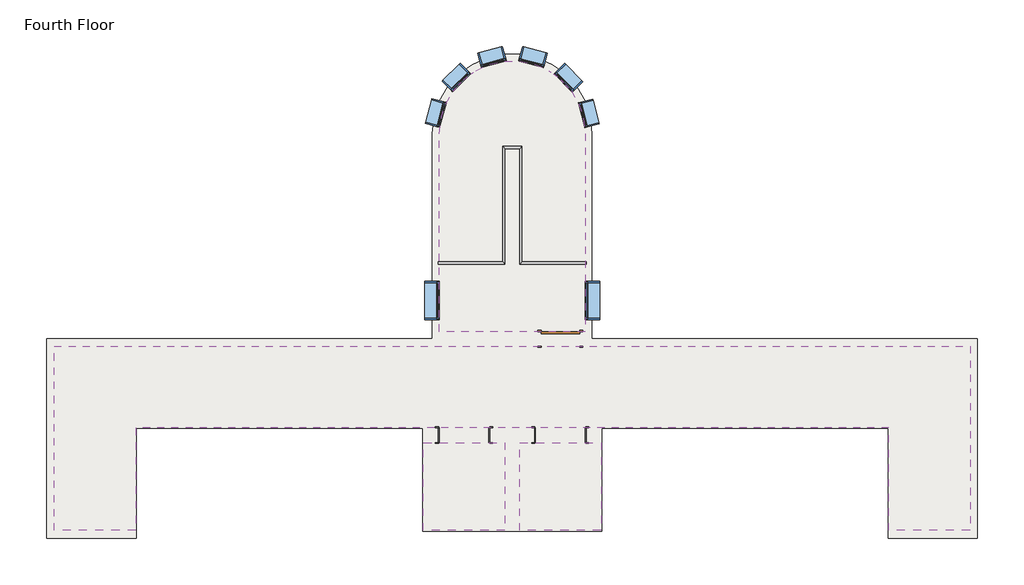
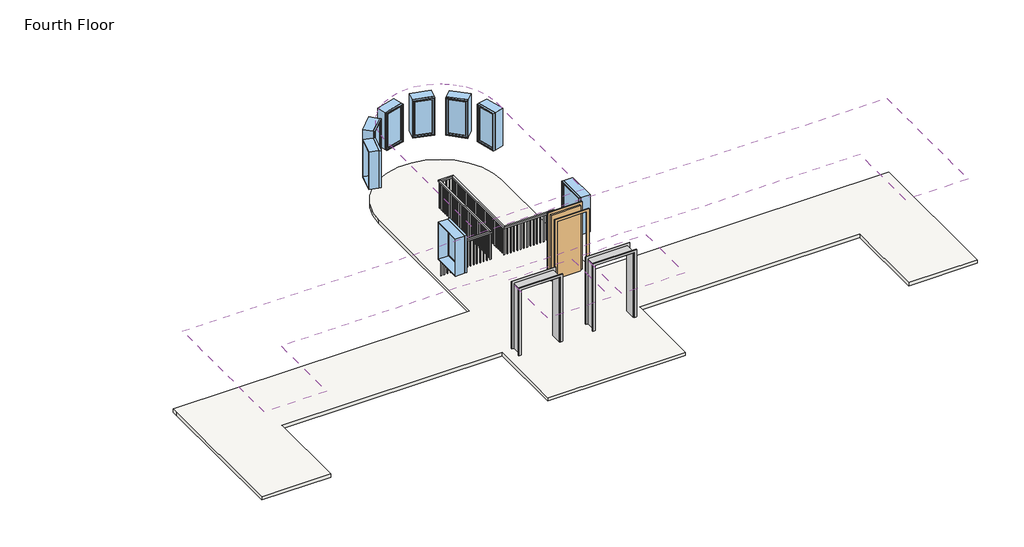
# One storey: 8 windows, 4 coverings, 2 proxies, 1 door, 1 railing, 1 slab.
"""IFC4 building model written with IfcOpenShell, lengths in millimetres."""

from ifc_helpers import new_model, si_unit, point, frame, frame_2d, origin, place, context, project, spatial, polyline, circle_curve, trimmed, segment, composite_curve, outline, extrude, transform, mapped, element, save
from components import proxy_c3589814, door_632be17d, handrail_rectangular_05b30b02, window_60baf983, window_15c49d37

model = new_model("IFC4")

# Units and contexts
model_context = context("Model", 3, world=origin())
ifc_project = project(units=[si_unit("LENGTHUNIT", "METRE", prefix="MILLI")], contexts=[model_context])

# Site, building, storey
site = spatial("IfcSite", under=ifc_project)
building = spatial("IfcBuilding", under=site)
storey = spatial("IfcBuildingStorey", under=building, Name="Fourth Floor", Elevation=9144.0)

# Proxies
placement = place(None, origin())
proxy_shape = proxy_c3589814(model_context)
element("IfcBuildingElementProxy", 1, Name="Opening-Cased : 48\" x 84\"", ObjectType="Opening-Cased : 48\" x 84\"", at=placement, inside=storey, context=model_context, shape_type="MappedRepresentation", body=[
    mapped(proxy_shape, transform((-7396.8036255, 2429.9758812, 9144.0), x_axis=(-1.0, 0.0, 0.0), y_axis=(0.0, -1.0, 0.0), z_axis=(0.0, 0.0, 1.0))),
])
element("IfcBuildingElementProxy", 2, Name="Opening-Cased : 48\" x 84\"", ObjectType="Opening-Cased : 48\" x 84\"", at=placement, inside=storey, context=model_context, shape_type="MappedRepresentation", body=[
    mapped(proxy_shape, transform((-5110.8036255, 2429.9758812, 9144.0), x_axis=(-1.0, 0.0, 0.0), y_axis=(0.0, -1.0, 0.0), z_axis=(0.0, 0.0, 1.0))),
])

# Coverings
element("IfcCovering", 3, ObjectType="GWB on Mtl. Stud", at=placement, inside=storey, context=model_context, shape_type="SweptSolid", body=[
    extrude(outline(polyline([(2693.5975313, 167.7883812), (2693.5975313, 2606.1883812), (-15184.8274687, 2606.1883812), (-15184.8274687, 167.7883812), (-17118.4024687, 167.7883812), (-17118.4024687, 4539.7633812), (4627.1725313, 4539.7633812), (4627.1725313, 167.7883812), (2693.5975313, 167.7883812)])), frame((0.0, 0.0, 11734.8), z_axis=(0.0, 0.0, 1.0), x_axis=(1.0, 0.0, 0.0)), (0.0, 0.0, 1.0), 107.95),
])
element("IfcCovering", 4, ObjectType="GWB on Mtl. Stud", at=placement, inside=storey, context=model_context, shape_type="SweptSolid", body=[
    extrude(outline(composite_curve([segment(polyline([(-7974.4024687, 4892.1883812), (-7974.4024687, 9592.7758812)]), True, "CONTINUOUS"), segment(trimmed(circle_curve(frame_2d((-6245.6149687, 9592.7758812)), 1728.7875), [point((-7974.4024687, 9592.7758812))], [point((-4516.8274687, 9592.7758812))], False, "CARTESIAN"), True, "CONTINUOUS"), segment(polyline([(-4516.8274687, 9592.7758812), (-4516.8274687, 4892.1883812), (-7974.4024687, 4892.1883812)]), True, "CONTINUOUS")], self_intersect=False)), frame((0.0, 0.0, 11734.8), z_axis=(0.0, 0.0, 1.0), x_axis=(1.0, 0.0, 0.0)), (0.0, 0.0, 1.0), 107.95),
])
element("IfcCovering", 5, ObjectType="GWB on Mtl. Stud", at=placement, inside=storey, context=model_context, shape_type="SweptSolid", body=[
    extrude(outline(polyline([(-6421.8274687, 167.7883812), (-8355.4024687, 167.7883812), (-8355.4024687, 2253.7633812), (-6421.8274687, 2253.7633812), (-6421.8274687, 167.7883812)])), frame((0.0, 0.0, 11734.8), z_axis=(0.0, 0.0, 1.0), x_axis=(1.0, 0.0, 0.0)), (0.0, 0.0, 1.0), 107.95),
])
element("IfcCovering", 6, ObjectType="GWB on Mtl. Stud", at=placement, inside=storey, context=model_context, shape_type="SweptSolid", body=[
    extrude(outline(polyline([(-4135.8274687, 2253.7633812), (-4135.8274687, 167.7883812), (-6069.4024687, 167.7883812), (-6069.4024687, 2253.7633812), (-4135.8274687, 2253.7633812)])), frame((0.0, 0.0, 11734.8), z_axis=(0.0, 0.0, 1.0), x_axis=(1.0, 0.0, 0.0)), (0.0, 0.0, 1.0), 107.95),
])

# Door
door_shape = door_632be17d(model_context)
element("IfcDoor", 7, ObjectType="Single-Flush : 36\" x 84\"", at=placement, inside=storey, context=model_context, shape_type="MappedRepresentation", body=[
    mapped(door_shape, transform((-5102.6149687, 4715.9758812, 9144.0), x_axis=(1.0, 0.0, 0.0), y_axis=(0.0, 1.0, 0.0), z_axis=(0.0, 0.0, 1.0))),
])

# Railing
handrail_rectangular_shape = handrail_rectangular_05b30b02(model_context)
element("IfcRailing", 8, ObjectType="Handrail - Rectangular", at=placement, inside=storey, context=model_context, shape_type="MappedRepresentation", body=[
    mapped(handrail_rectangular_shape, transform((0.0, 0.0, 0.0), x_axis=(1.0, 0.0, 0.0), y_axis=(0.0, 1.0, 0.0), z_axis=(0.0, 0.0, 1.0))),
])

# Slab
element("IfcSlab", 9, ObjectType="LW Concrete on Metal Deck", at=placement, inside=storey, context=model_context, shape_type="SweptSolid", body=[
    extrude(outline(composite_curve([segment(polyline([(-17305.7274687, 4552.4633812), (-17305.7274687, 4715.9758812), (-8139.5024687, 4715.9758812), (-8139.5024687, 9592.7758812)]), True, "CONTINUOUS"), segment(trimmed(circle_curve(frame_2d((-6245.6149687, 9592.7758812)), 1893.8875), [point((-8139.5024687, 9592.7758812))], [point((-4351.7274687, 9592.7758812))], False, "CARTESIAN"), True, "CONTINUOUS"), segment(polyline([(-4351.7274687, 9592.7758812), (-4351.7274687, 4715.9758812), (4803.3850313, 4715.9758812), (4803.3850313, -19.5366188), (2680.8975313, -19.5366188), (2680.8975313, 2593.4883812), (-4123.1274687, 2593.4883812), (-4123.1274687, 155.0883812), (-8368.1024687, 155.0883812), (-8368.1024687, 2593.4883812), (-15172.1274687, 2593.4883812), (-15172.1274687, -19.5366188), (-17305.7274687, -19.5366188), (-17305.7274687, 4552.4633812)]), True, "CONTINUOUS")], self_intersect=False)), frame((0.0, 0.0, 9039.225), z_axis=(0.0, 0.0, 1.0), x_axis=(1.0, 0.0, 0.0)), (0.0, 0.0, 1.0), 104.775),
])

# Windows
window_shape = window_60baf983(model_context)
element("IfcWindow", 10, ObjectType="Fixed : 24\" x 48\"", at=placement, inside=storey, context=model_context, shape_type="MappedRepresentation", body=[
    mapped(window_shape, transform((-8072.5076754, 10048.7859441, 9144.0), x_axis=(-0.2617614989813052, -0.9651325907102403, 0.0), y_axis=(0.9651325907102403, -0.2617614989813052, 0.0), z_axis=(0.0, 0.0, 1.0))),
])
element("IfcWindow", 11, ObjectType="Fixed : 24\" x 48\"", at=placement, inside=storey, context=model_context, shape_type="MappedRepresentation", body=[
    mapped(window_shape, transform((-7599.7454312, 10901.1385333, 9144.0), x_axis=(-0.7092584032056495, -0.7049485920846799, 0.0), y_axis=(0.7049485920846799, -0.7092584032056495, 0.0), z_axis=(0.0, 0.0, 1.0))),
])
element("IfcWindow", 12, ObjectType="Fixed : 24\" x 48\"", at=placement, inside=storey, context=model_context, shape_type="MappedRepresentation", body=[
    mapped(window_shape, transform((-6764.1450232, 11402.9164066, 9144.0), x_axis=(-0.96671009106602, -0.25587418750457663, 0.0), y_axis=(0.25587418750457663, -0.96671009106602, 0.0), z_axis=(0.0, 0.0, 1.0))),
])
element("IfcWindow", 13, ObjectType="Fixed : 24\" x 48\"", at=placement, inside=storey, context=model_context, shape_type="MappedRepresentation", body=[
    mapped(window_shape, transform((-5789.6049059, 11419.6685878, 9144.0), x_axis=(-0.9651325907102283, 0.2617614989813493, 0.0), y_axis=(-0.2617614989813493, -0.9651325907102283, 0.0), z_axis=(0.0, 0.0, 1.0))),
])
element("IfcWindow", 14, ObjectType="Fixed : 24\" x 48\"", at=placement, inside=storey, context=model_context, shape_type="MappedRepresentation", body=[
    mapped(window_shape, transform((-4937.2523166, 10946.9063437, 9144.0), x_axis=(-0.7049485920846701, 0.7092584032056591, 0.0), y_axis=(-0.7092584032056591, -0.7049485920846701, 0.0), z_axis=(0.0, 0.0, 1.0))),
])
element("IfcWindow", 15, ObjectType="Fixed : 24\" x 48\"", at=placement, inside=storey, context=model_context, shape_type="MappedRepresentation", body=[
    mapped(window_shape, transform((-4435.4744434, 10111.3059357, 9144.0), x_axis=(-0.25587418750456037, 0.9667100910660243, 0.0), y_axis=(-0.9667100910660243, -0.25587418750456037, 0.0), z_axis=(0.0, 0.0, 1.0))),
])
window_2_shape = window_15c49d37(model_context)
element("IfcWindow", 16, ObjectType="Fixed : 36\" x 48\"", at=placement, inside=storey, context=model_context, shape_type="MappedRepresentation", body=[
    mapped(window_2_shape, transform((-8150.6149687, 5592.2758812, 9144.0), x_axis=(0.0, -1.0, 0.0), y_axis=(1.0, 0.0, 0.0), z_axis=(0.0, 0.0, 1.0))),
])
element("IfcWindow", 17, ObjectType="Fixed : 36\" x 48\"", at=placement, inside=storey, context=model_context, shape_type="MappedRepresentation", body=[
    mapped(window_2_shape, transform((-4340.6149687, 5668.4758812, 9144.0), x_axis=(0.0, 1.0, 0.0), y_axis=(-1.0, 0.0, 0.0), z_axis=(0.0, 0.0, 1.0))),
])

save(model, "model.ifc")
